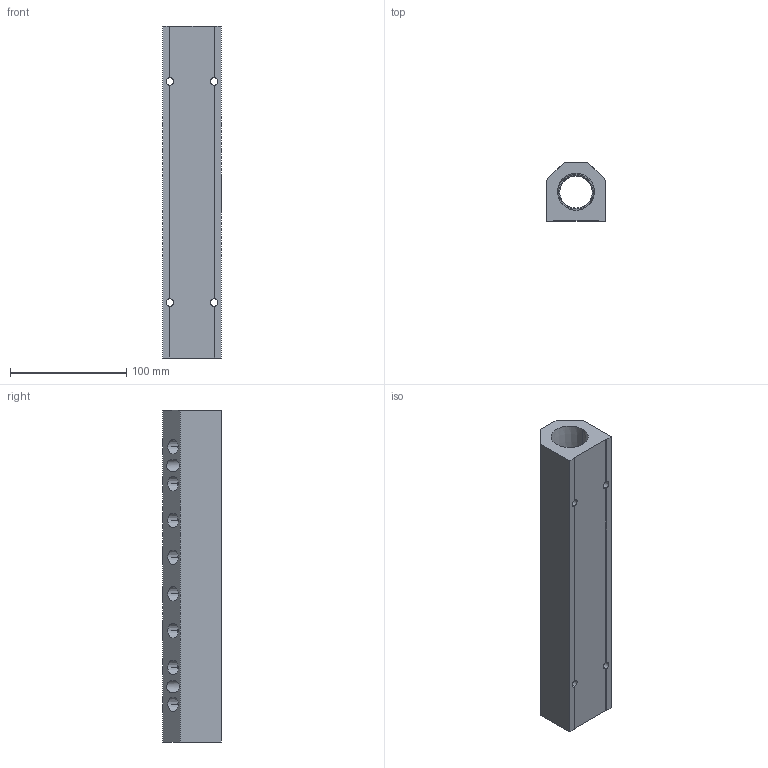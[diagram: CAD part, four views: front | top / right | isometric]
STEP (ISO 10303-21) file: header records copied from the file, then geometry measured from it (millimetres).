
FILE_DESCRIPTION (( 'STEP AP214' ), '1' );
FILE_NAME ('ALM8BCD-N4N16-286R.STEP', '2023-11-02T06:52:46', ( '' ), ( '' ), 'SwSTEP 2.0', 'SolidWorks 2020', '' );
FILE_SCHEMA (( 'AUTOMOTIVE_DESIGN' ));
Length unit declared in the file: millimetre
Products named in the file (1): ALM8BCD-N4N16-286R
Bounding box: 50.8 x 50.8 x 286 mm (x, y, z)
Volume: 439502.8 mm3; surface area: 90657.3 mm2
Topology: 1 solids, 1 shells, 368 faces, 968 edges, 640 vertices
Faces by surface type: plane 203, bspline 87, cone 56, cylinder 22
Entity records: 21877 total; most frequent: CARTESIAN_POINT 9904, ORIENTED_EDGE 1936, DIRECTION 1386, EDGE_CURVE 968, VERTEX_POINT 640, LINE 638, VECTOR 638, EDGE_LOOP 464
